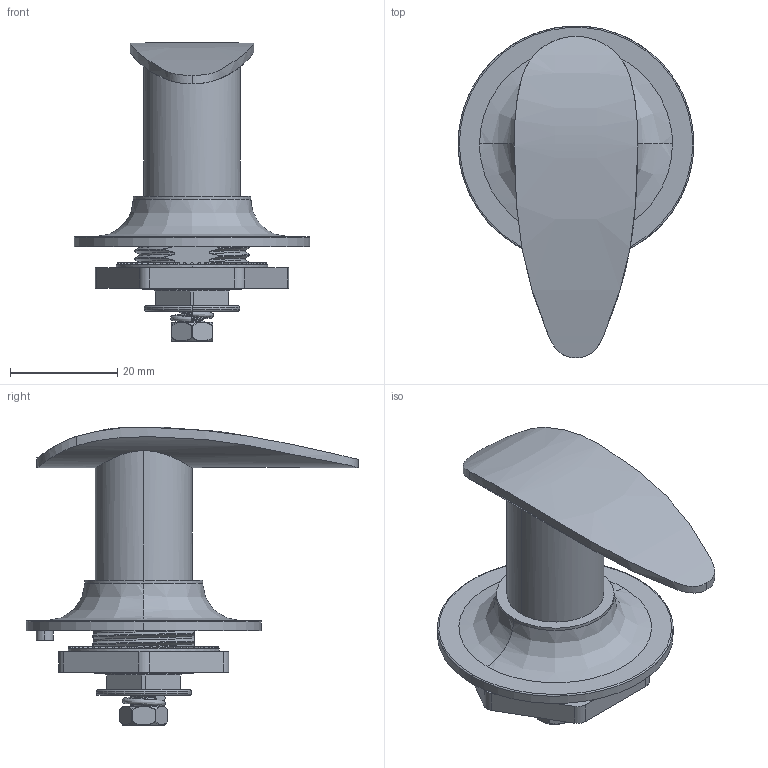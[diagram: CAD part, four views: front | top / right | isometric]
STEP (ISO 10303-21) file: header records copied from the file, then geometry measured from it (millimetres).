
FILE_DESCRIPTION(/* description */ (''),/* implementation_level */ '2;1');
FILE_NAME(/* name */ 'B-19 圓座丸型把手',/* time_stamp */ '2023-05-09T12:00:07+08:00',/* author */ (''),/* organization */ (''),/* preprocessor_version */ 'ST-DEVELOPER v16.5',/* originating_system */ 'Rhino 7.28',/* authorisation */ '');
FILE_SCHEMA (('CONFIG_CONTROL_DESIGN'));
Length unit declared in the file: millimetre
Products named in the file (1): Document
Bounding box: 44 x 61.98 x 55.74 mm (x, y, z)
Volume: 22333.5 mm3; surface area: 11832.6 mm2
Topology: 5 solids, 5 shells, 789 faces, 1947 edges, 1243 vertices
Faces by surface type: plane 475, bspline 205, cylinder 109
Entity records: 39311 total; most frequent: CARTESIAN_POINT 26292, ORIENTED_EDGE 3874, EDGE_CURVE 1937, B_SPLINE_CURVE_WITH_KNOTS 1520, VERTEX_POINT 1243, EDGE_LOOP 882, ADVANCED_FACE 789, FACE_OUTER_BOUND 789
